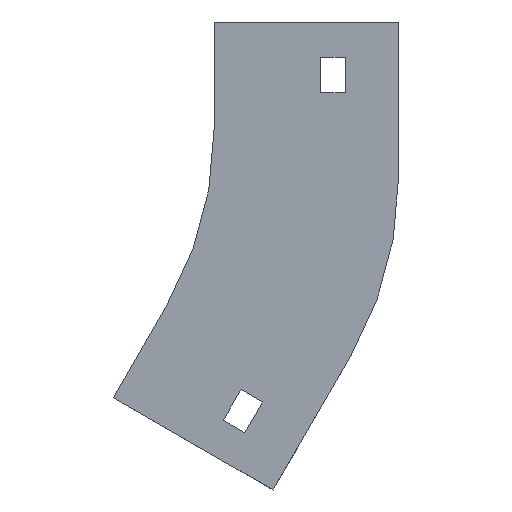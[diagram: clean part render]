
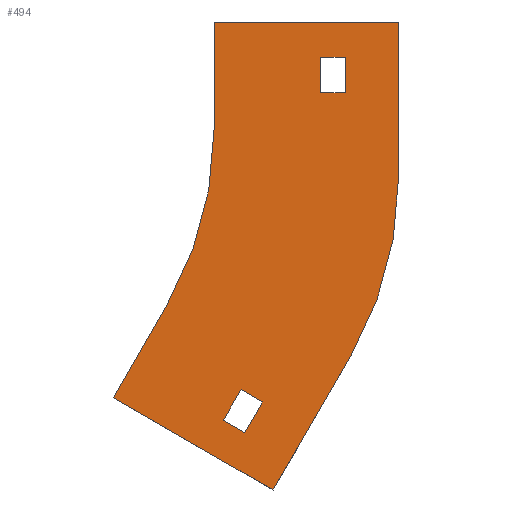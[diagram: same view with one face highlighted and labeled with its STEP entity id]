
A CAD part, left-side view. The second image highlights one B-rep face of the part: STEP entity #494.
In plain terms, the highlighted planar face has unit normal (-1, 0, 0).
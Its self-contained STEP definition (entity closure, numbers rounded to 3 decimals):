
#37 = ORIENTED_EDGE ( 'NONE', *, *, #877, .F. ) ;
#40 = ORIENTED_EDGE ( 'NONE', *, *, #1341, .F. ) ;
#41 = VERTEX_POINT ( 'NONE', #1250 ) ;
#49 = DIRECTION ( 'NONE',  ( 0., 0., 1. ) ) ;
#63 = ORIENTED_EDGE ( 'NONE', *, *, #1255, .T. ) ;
#71 = VECTOR ( 'NONE', #1181, 1000. ) ;
#72 = LINE ( 'NONE', #175, #503 ) ;
#109 = VECTOR ( 'NONE', #389, 1000. ) ;
#110 = LINE ( 'NONE', #883, #507 ) ;
#130 = EDGE_CURVE ( 'NONE', #249, #375, #859, .T. ) ;
#131 = VERTEX_POINT ( 'NONE', #948 ) ;
#140 = VECTOR ( 'NONE', #916, 1000. ) ;
#150 = DIRECTION ( 'NONE',  ( 0., 0., -1. ) ) ;
#153 = VERTEX_POINT ( 'NONE', #430 ) ;
#158 = VERTEX_POINT ( 'NONE', #846 ) ;
#175 = CARTESIAN_POINT ( 'NONE',  ( -77., -30., -20. ) ) ;
#181 = EDGE_CURVE ( 'NONE', #502, #1306, #870, .T. ) ;
#185 = AXIS2_PLACEMENT_3D ( 'NONE', #1207, #1229, #1087 ) ;
#201 = FACE_OUTER_BOUND ( 'NONE', #1139, .T. ) ;
#214 = DIRECTION ( 'NONE',  ( 0., -1., 0. ) ) ;
#238 = DIRECTION ( 'NONE',  ( 0., 0., -1. ) ) ;
#249 = VERTEX_POINT ( 'NONE', #439 ) ;
#275 = ORIENTED_EDGE ( 'NONE', *, *, #609, .T. ) ;
#306 = ORIENTED_EDGE ( 'NONE', *, *, #688, .F. ) ;
#307 = LINE ( 'NONE', #318, #523 ) ;
#318 = CARTESIAN_POINT ( 'NONE',  ( -77., 0., 0. ) ) ;
#337 = DIRECTION ( 'NONE',  ( 0., 0., 1. ) ) ;
#370 = EDGE_LOOP ( 'NONE', ( #593, #586, #306, #37 ) ) ;
#375 = VERTEX_POINT ( 'NONE', #1182 ) ;
#384 = DIRECTION ( 'NONE',  ( 0., 0., -1. ) ) ;
#389 = DIRECTION ( 'NONE',  ( 0., 0.5, -0.866 ) ) ;
#409 = LINE ( 'NONE', #1186, #480 ) ;
#411 = VERTEX_POINT ( 'NONE', #677 ) ;
#413 = CARTESIAN_POINT ( 'NONE',  ( -77., -30., -10. ) ) ;
#430 = CARTESIAN_POINT ( 'NONE',  ( -77., -37., -10. ) ) ;
#439 = CARTESIAN_POINT ( 'NONE',  ( -77., 0., 0. ) ) ;
#443 = DIRECTION ( 'NONE',  ( -1., 0., 0. ) ) ;
#448 = EDGE_CURVE ( 'NONE', #850, #131, #1144, .T. ) ;
#476 = CARTESIAN_POINT ( 'NONE',  ( -77., -16.636, -131.981 ) ) ;
#479 = ORIENTED_EDGE ( 'NONE', *, *, #1308, .F. ) ;
#480 = VECTOR ( 'NONE', #853, 1000. ) ;
#484 = CARTESIAN_POINT ( 'NONE',  ( -77., -30., -10. ) ) ;
#488 = VECTOR ( 'NONE', #629, 1000. ) ;
#490 = VECTOR ( 'NONE', #49, 1000. ) ;
#494 = ADVANCED_FACE ( 'NONE', ( #201, #871, #1284 ), #763, .F. ) ;
#500 = CARTESIAN_POINT ( 'NONE',  ( -77., 28.397, -105.981 ) ) ;
#502 = VERTEX_POINT ( 'NONE', #1297 ) ;
#503 = VECTOR ( 'NONE', #548, 1000. ) ;
#507 = VECTOR ( 'NONE', #1076, 1000. ) ;
#523 = VECTOR ( 'NONE', #337, 1000. ) ;
#548 = DIRECTION ( 'NONE',  ( 0., 1., 0. ) ) ;
#555 = ORIENTED_EDGE ( 'NONE', *, *, #717, .F. ) ;
#556 = CARTESIAN_POINT ( 'NONE',  ( -77., 100., -30. ) ) ;
#559 = CARTESIAN_POINT ( 'NONE',  ( -77., -7.583, -103.66 ) ) ;
#566 = AXIS2_PLACEMENT_3D ( 'NONE', #857, #852, #623 ) ;
#586 = ORIENTED_EDGE ( 'NONE', *, *, #599, .F. ) ;
#593 = ORIENTED_EDGE ( 'NONE', *, *, #448, .F. ) ;
#598 = DIRECTION ( 'NONE',  ( 0., -0.5, 0.866 ) ) ;
#599 = EDGE_CURVE ( 'NONE', #1343, #850, #715, .T. ) ;
#609 = EDGE_CURVE ( 'NONE', #41, #502, #72, .T. ) ;
#615 = CARTESIAN_POINT ( 'NONE',  ( -77., -8.645, -115.821 ) ) ;
#623 = DIRECTION ( 'NONE',  ( 0., 0., -1. ) ) ;
#629 = DIRECTION ( 'NONE',  ( 0., -0.5, 0.866 ) ) ;
#646 = CARTESIAN_POINT ( 'NONE',  ( -77., -30., -10. ) ) ;
#677 = CARTESIAN_POINT ( 'NONE',  ( -77., -38.603, -93.933 ) ) ;
#682 = ORIENTED_EDGE ( 'NONE', *, *, #786, .F. ) ;
#688 = EDGE_CURVE ( 'NONE', #1352, #1343, #409, .T. ) ;
#689 = CARTESIAN_POINT ( 'NONE',  ( -77., -52., -43.933 ) ) ;
#694 = EDGE_LOOP ( 'NONE', ( #880, #1344, #63, #275 ) ) ;
#696 = CARTESIAN_POINT ( 'NONE',  ( -77., -37., -10. ) ) ;
#697 = VECTOR ( 'NONE', #214, 1000. ) ;
#706 = DIRECTION ( 'NONE',  ( 0., -0.866, -0.5 ) ) ;
#715 = LINE ( 'NONE', #1359, #109 ) ;
#717 = EDGE_CURVE ( 'NONE', #931, #1244, #1301, .T. ) ;
#749 = LINE ( 'NONE', #413, #697 ) ;
#757 = VERTEX_POINT ( 'NONE', #1015 ) ;
#761 = EDGE_CURVE ( 'NONE', #158, #411, #801, .T. ) ;
#763 = PLANE ( 'NONE',  #566 ) ;
#772 = AXIS2_PLACEMENT_3D ( 'NONE', #556, #443, #238 ) ;
#786 = EDGE_CURVE ( 'NONE', #411, #1028, #1330, .T. ) ;
#801 = CIRCLE ( 'NONE', #185, 100. ) ;
#835 = CARTESIAN_POINT ( 'NONE',  ( -77., 13.397, -80. ) ) ;
#846 = CARTESIAN_POINT ( 'NONE',  ( -77., -52., -43.933 ) ) ;
#850 = VERTEX_POINT ( 'NONE', #1240 ) ;
#852 = DIRECTION ( 'NONE',  ( 1., 0., 0. ) ) ;
#853 = DIRECTION ( 'NONE',  ( 0., 0.866, 0.5 ) ) ;
#857 = CARTESIAN_POINT ( 'NONE',  ( -77., 100., -30. ) ) ;
#859 = LINE ( 'NONE', #1280, #71 ) ;
#861 = EDGE_CURVE ( 'NONE', #375, #158, #1263, .T. ) ;
#870 = LINE ( 'NONE', #484, #490 ) ;
#871 = FACE_BOUND ( 'NONE', #694, .T. ) ;
#877 = EDGE_CURVE ( 'NONE', #131, #1352, #1147, .T. ) ;
#880 = ORIENTED_EDGE ( 'NONE', *, *, #181, .T. ) ;
#881 = CARTESIAN_POINT ( 'NONE',  ( -77., -13.645, -107.16 ) ) ;
#883 = CARTESIAN_POINT ( 'NONE',  ( -77., 28.397, -105.981 ) ) ;
#916 = DIRECTION ( 'NONE',  ( 0., 0.5, -0.866 ) ) ;
#931 = VERTEX_POINT ( 'NONE', #500 ) ;
#946 = ORIENTED_EDGE ( 'NONE', *, *, #861, .F. ) ;
#948 = CARTESIAN_POINT ( 'NONE',  ( -77., -8.645, -115.821 ) ) ;
#960 = CARTESIAN_POINT ( 'NONE',  ( -77., 13.397, -80. ) ) ;
#1015 = CARTESIAN_POINT ( 'NONE',  ( -77., 0., -30. ) ) ;
#1028 = VERTEX_POINT ( 'NONE', #1185 ) ;
#1061 = VECTOR ( 'NONE', #384, 1000. ) ;
#1076 = DIRECTION ( 'NONE',  ( 0., 0.866, 0.5 ) ) ;
#1087 = DIRECTION ( 'NONE',  ( 0., 0., 1. ) ) ;
#1094 = ORIENTED_EDGE ( 'NONE', *, *, #130, .F. ) ;
#1107 = VECTOR ( 'NONE', #598, 1000. ) ;
#1122 = VECTOR ( 'NONE', #706, 1000. ) ;
#1139 = EDGE_LOOP ( 'NONE', ( #1094, #1246, #40, #555, #479, #682, #1151, #946 ) ) ;
#1144 = LINE ( 'NONE', #1154, #1122 ) ;
#1147 = LINE ( 'NONE', #615, #1107 ) ;
#1151 = ORIENTED_EDGE ( 'NONE', *, *, #761, .F. ) ;
#1154 = CARTESIAN_POINT ( 'NONE',  ( -77., -2.583, -112.321 ) ) ;
#1181 = DIRECTION ( 'NONE',  ( 0., -1., 0. ) ) ;
#1182 = CARTESIAN_POINT ( 'NONE',  ( -77., -52., 0. ) ) ;
#1185 = CARTESIAN_POINT ( 'NONE',  ( -77., -16.636, -131.981 ) ) ;
#1186 = CARTESIAN_POINT ( 'NONE',  ( -77., -7.583, -103.66 ) ) ;
#1207 = CARTESIAN_POINT ( 'NONE',  ( -77., 48., -43.933 ) ) ;
#1229 = DIRECTION ( 'NONE',  ( 1., 0., 0. ) ) ;
#1240 = CARTESIAN_POINT ( 'NONE',  ( -77., -2.583, -112.321 ) ) ;
#1244 = VERTEX_POINT ( 'NONE', #835 ) ;
#1246 = ORIENTED_EDGE ( 'NONE', *, *, #1268, .F. ) ;
#1250 = CARTESIAN_POINT ( 'NONE',  ( -77., -37., -20. ) ) ;
#1255 = EDGE_CURVE ( 'NONE', #153, #41, #1261, .T. ) ;
#1261 = LINE ( 'NONE', #696, #1061 ) ;
#1263 = LINE ( 'NONE', #689, #1318 ) ;
#1268 = EDGE_CURVE ( 'NONE', #757, #249, #307, .T. ) ;
#1280 = CARTESIAN_POINT ( 'NONE',  ( -77., -52., 0. ) ) ;
#1284 = FACE_BOUND ( 'NONE', #370, .T. ) ;
#1293 = EDGE_CURVE ( 'NONE', #1306, #153, #749, .T. ) ;
#1297 = CARTESIAN_POINT ( 'NONE',  ( -77., -30., -20. ) ) ;
#1301 = LINE ( 'NONE', #960, #488 ) ;
#1306 = VERTEX_POINT ( 'NONE', #646 ) ;
#1308 = EDGE_CURVE ( 'NONE', #1028, #931, #110, .T. ) ;
#1318 = VECTOR ( 'NONE', #150, 1000. ) ;
#1330 = LINE ( 'NONE', #476, #140 ) ;
#1339 = CIRCLE ( 'NONE', #772, 100. ) ;
#1341 = EDGE_CURVE ( 'NONE', #1244, #757, #1339, .T. ) ;
#1343 = VERTEX_POINT ( 'NONE', #559 ) ;
#1344 = ORIENTED_EDGE ( 'NONE', *, *, #1293, .T. ) ;
#1352 = VERTEX_POINT ( 'NONE', #881 ) ;
#1359 = CARTESIAN_POINT ( 'NONE',  ( -77., -2.583, -112.321 ) ) ;
